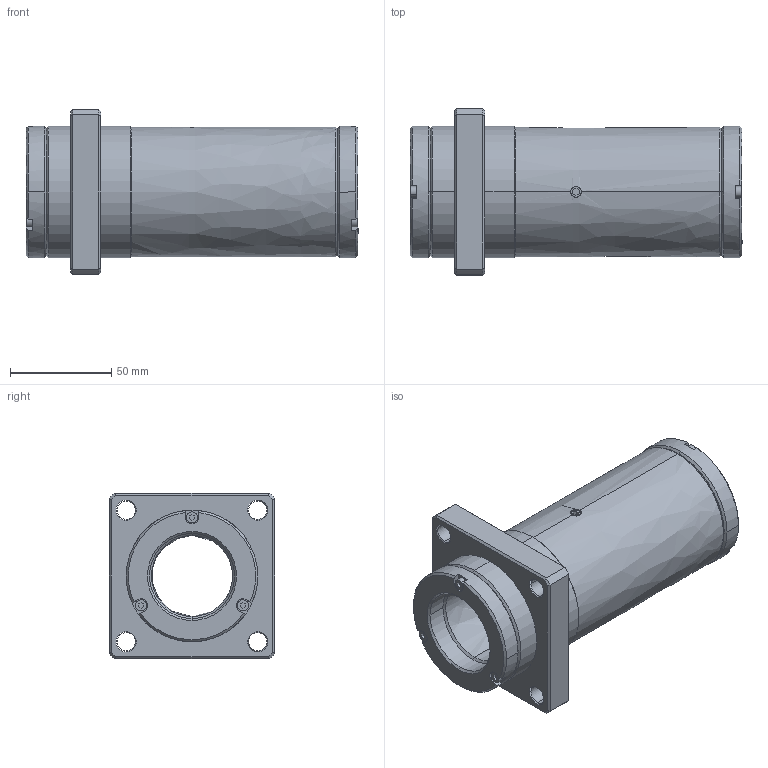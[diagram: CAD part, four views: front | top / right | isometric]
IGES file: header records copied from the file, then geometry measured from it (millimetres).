
Start section: 3D InterOp IGES (Version 21 0 1), Spatial Corp. Copyright (c) 1999-2007.
Global section: file name: LCF-40BUU-K.igs; native system: Spatial Corp.; preprocessor: 3D InterOp GENERIC/IGES 3.0; author: Noname; organization: Noname; date: 20220204.083944; units: millimetre
Bounding box: 164 x 82 x 82 mm (x, y, z)
Surface area: 68113 mm2 (no closed solid volume)
Topology: 0 solids, 0 shells, 200 faces, 1016 edges, 1016 vertices
Faces by surface type: revolution 108, extrusion 92
